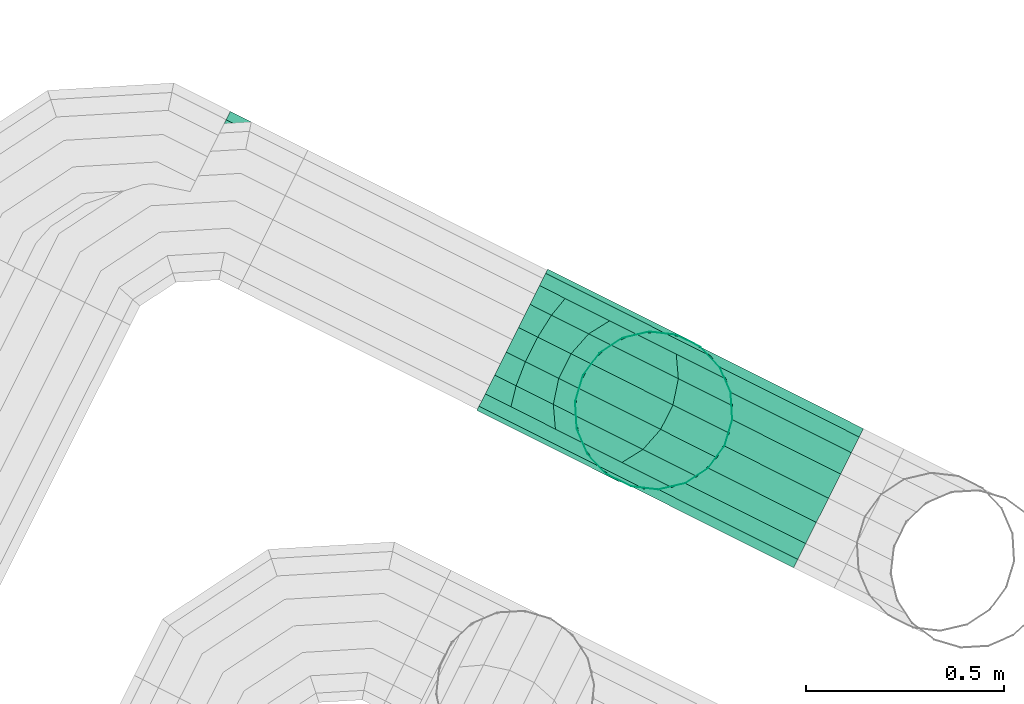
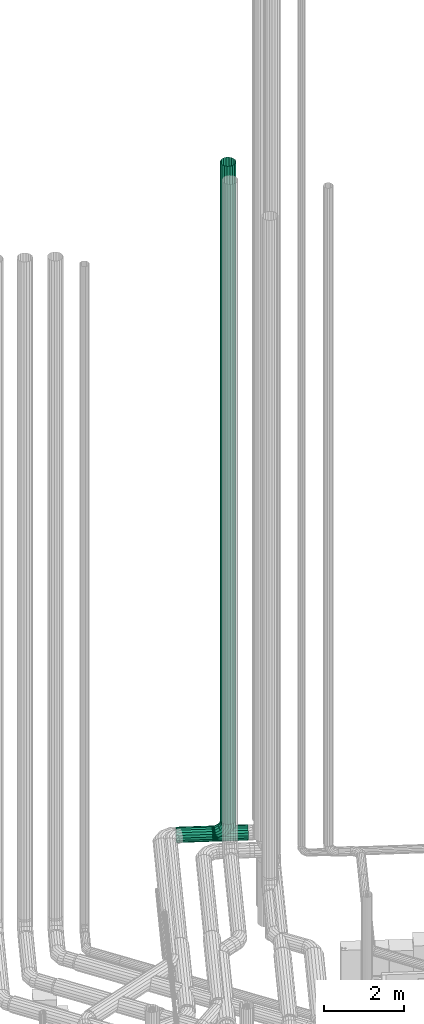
# One storey, part 32 of 206: 2 flow segments, 1 flow fitting.
"""IFC2X3 building model written with IfcOpenShell, lengths in metres."""

import ifcopenshell
import ifcopenshell.guid

model = None  # the IFC model being written
_history = None  # IfcOwnerHistory: only IFC2X3 demands one
_inside = {}  # id of a spatial element -> (the spatial element, [elements in it])
_under = {}  # id of a project, library or spatial element -> (it, [spatial elements below it])
_declared = {}  # id of a project -> (the project, [libraries it declares])
_typed = {}  # id of a type object -> (the type object, [elements of that type])
_made_of = {}  # id of a material, layer set ... -> (it, [elements and type objects made of it])


def new_model(schema):
    """Start an empty IFC model of exactly this schema.

    Asked for "IFC4X3", IfcOpenShell would pick the latest addendum, in which some entities
    have other attributes; the version numbers below select the first issue.
    IFC2X3 requires an IfcOwnerHistory on every rooted entity: one is made here for all.
    """
    global model, _history
    if schema == "IFC4X3":
        model = ifcopenshell.file(schema_version=(4, 3, 0, 0))
    else:
        model = ifcopenshell.file(schema=schema)
    _inside.clear()
    _under.clear()
    _declared.clear()
    _typed.clear()
    _made_of.clear()
    _history = None
    if model.schema == "IFC2X3":
        org = make("IfcOrganization", Name="unknown")
        user = make(
            "IfcPersonAndOrganization",
            ThePerson=make("IfcPerson", FamilyName="unknown"),
            TheOrganization=org,
        )
        app = make(
            "IfcApplication",
            ApplicationDeveloper=org,
            Version="unknown",
            ApplicationFullName="unknown",
            ApplicationIdentifier="unknown",
        )
        _history = make(
            "IfcOwnerHistory",
            OwningUser=user,
            OwningApplication=app,
            ChangeAction="ADDED",
            CreationDate=0,
        )
    return model


def make(cls, **values):
    """One entity of the class cls with the attributes given. An attribute that is None is left unset."""
    return model.create_entity(
        cls, **{name: value for name, value in values.items() if value is not None}
    )


def rooted(cls, **values):
    """An entity with a GlobalId (a new one), such as an element, a storey or a relation."""
    return make(cls, GlobalId=ifcopenshell.guid.new(), OwnerHistory=_history, **values)


def si_unit(unit_type, name, prefix=None):
    """IfcSIUnit, for example si_unit("LENGTHUNIT", "METRE", prefix="MILLI")."""
    return make("IfcSIUnit", UnitType=unit_type, Prefix=prefix, Name=name)


def derived_unit(unit_type, elements):
    """IfcDerivedUnit: a product of units, each with its exponent."""
    return make(
        "IfcDerivedUnit",
        Elements=[
            make("IfcDerivedUnitElement", Unit=unit, Exponent=power)
            for unit, power in elements
        ],
        UnitType=unit_type,
    )


def assignment(units):
    """IfcUnitAssignment: the units of a project."""
    return None if units is None else make("IfcUnitAssignment", Units=units)


def point(xyz):
    """IfcCartesianPoint."""
    return None if xyz is None else make("IfcCartesianPoint", Coordinates=xyz)


def direction(xyz):
    """IfcDirection."""
    return None if xyz is None else make("IfcDirection", DirectionRatios=xyz)


def frame(location, z_axis=None, x_axis=None):
    """IfcAxis2Placement3D, a coordinate frame: its origin and axes. An axis left out is left unset."""
    return make(
        "IfcAxis2Placement3D",
        Location=point(location),
        Axis=direction(z_axis),
        RefDirection=direction(x_axis),
    )


def origin():
    """The frame at (0, 0, 0) with its axes left unset."""
    return frame((0.0, 0.0, 0.0))


def place(relative_to, where):
    """IfcLocalPlacement: puts the frame where relative to a parent placement (None: the world)."""
    return make(
        "IfcLocalPlacement", PlacementRelTo=relative_to, RelativePlacement=where
    )


def context(
    kind, dimensions, precision=None, world=None, true_north=None, identifier=None
):
    """IfcGeometricRepresentationContext, for example the 3D "Model" context."""
    return make(
        "IfcGeometricRepresentationContext",
        ContextIdentifier=identifier,
        ContextType=kind,
        CoordinateSpaceDimension=dimensions,
        Precision=precision,
        WorldCoordinateSystem=world,
        TrueNorth=true_north,
    )


def subcontext(parent, identifier, kind, view, scale=None):
    """IfcGeometricRepresentationSubContext, for example "Body" below "Model"."""
    return make(
        "IfcGeometricRepresentationSubContext",
        ContextIdentifier=identifier,
        ContextType=kind,
        ParentContext=parent,
        TargetScale=scale,
        TargetView=view,
    )


def project(units=None, contexts=None):
    """IfcProject with its units and contexts."""
    return rooted(
        "IfcProject",
        Name="project",
        RepresentationContexts=contexts,
        UnitsInContext=assignment(units),
    )


def spatial(cls, under=None, at=None, **own):
    """A site, building, storey or space (cls), placed at a placement, below another one or the project."""
    s = rooted(cls, ObjectPlacement=at, **own)
    if under is not None:
        _under.setdefault(under.id(), (under, []))[1].append(s)
    return s


def faces_of(points, faces, orient=None, outer=None):
    """IfcFace entities. A face is a list of loops; a loop is a list of indices into points, from 0.

    orient and outer hold one flag for each loop. By default every Orientation is true, the
    first loop of a face is its IfcFaceOuterBound and the others are IfcFaceBound.
    """
    made = []
    for i, loops in enumerate(faces):
        bounds = []
        for j, loop in enumerate(loops):
            is_outer = j == 0 if outer is None else outer[i][j]
            bounds.append(
                make(
                    "IfcFaceOuterBound" if is_outer else "IfcFaceBound",
                    Bound=make("IfcPolyLoop", Polygon=[points[k] for k in loop]),
                    Orientation=True if orient is None else orient[i][j],
                )
            )
        made.append(make("IfcFace", Bounds=bounds))
    return made


def face_set(faces, orient=None, outer=None):
    """The faces of one IfcConnectedFaceSet. surface_model builds it on its shared points."""
    return ("IfcConnectedFaceSet", faces, orient, outer)


def surface_model(cls, points, shells):
    """IfcFaceBasedSurfaceModel or IfcShellBasedSurfaceModel (cls): surfaces that need not close."""
    shared = [point(p) for p in points]
    made = [make(c, CfsFaces=faces_of(shared, fs, o, b)) for c, fs, o, b in shells]
    if cls == "IfcFaceBasedSurfaceModel":
        return make(cls, FbsmFaces=made)
    return make(cls, SbsmBoundary=made)


def shape(context_of_items, identifier, shape_type, items):
    """IfcShapeRepresentation: the items that make up one representation, for example the "Body"."""
    return make(
        "IfcShapeRepresentation",
        ContextOfItems=context_of_items,
        RepresentationIdentifier=identifier,
        RepresentationType=shape_type,
        Items=items,
    )


def source(mapping_origin, context_of_items, identifier, shape_type, items):
    """IfcRepresentationMap: a shape defined once, which mapped items show again and again."""
    return make(
        "IfcRepresentationMap",
        MappingOrigin=mapping_origin,
        MappedRepresentation=shape(context_of_items, identifier, shape_type, items),
    )


def transform(
    local_origin,
    x_axis=None,
    y_axis=None,
    z_axis=None,
    scale=None,
    scale2=None,
    scale3=None,
    uniform=True,
):
    """IfcCartesianTransformationOperator3D, or its non-uniform kind. x_axis, y_axis, z_axis: its Axis1, 2, 3."""
    if uniform:
        return make(
            "IfcCartesianTransformationOperator3D",
            Axis1=direction(x_axis),
            Axis2=direction(y_axis),
            LocalOrigin=point(local_origin),
            Scale=scale,
            Axis3=direction(z_axis),
        )
    return make(
        "IfcCartesianTransformationOperator3DnonUniform",
        Axis1=direction(x_axis),
        Axis2=direction(y_axis),
        LocalOrigin=point(local_origin),
        Scale=scale,
        Axis3=direction(z_axis),
        Scale2=scale2,
        Scale3=scale3,
    )


def mapped(mapping_source, mapping_target):
    """IfcMappedItem: shows the shape of a source again, moved by a transform."""
    return make(
        "IfcMappedItem", MappingSource=mapping_source, MappingTarget=mapping_target
    )


def material(Name=None, Category=None):
    """IfcMaterial."""
    return make("IfcMaterial", Name=Name, Category=Category)


def made_of(thing, what):
    """Note that an element or type object is made of a material, layer set ...; save() writes the relation."""
    if what is not None:
        _made_of.setdefault(what.id(), (what, []))[1].append(thing)
    return thing


def type_object(cls, material=None, **own):
    """A type object (cls), such as IfcWallType, which elements share."""
    return made_of(rooted(cls, **own), material)


def type_shapes(of_type, sources):
    """Give a type object the sources (RepresentationMaps) that its elements show as mapped items."""
    of_type.RepresentationMaps = sources


def element(
    cls,
    number,
    at=None,
    inside=None,
    cuts=None,
    type_object=None,
    material=None,
    context=None,
    identifier="Body",
    shape_type=None,
    held_by="IfcProductDefinitionShape",
    body=None,
    shapes=None,
    **own,
):
    """One element of the class cls, such as IfcWall. Its Tag is "e" and its number.

    at: its placement. inside: the storey or other place that contains it. cuts: it is an
    opening in that element (IfcRelVoidsElement). A single representation is given by context,
    identifier, shape_type and body (its items); several are given by shapes. held_by: the class
    of the entity that holds the representations. save() writes the other relations.
    """
    e = rooted(cls, Tag="e%d" % number, ObjectPlacement=at, **own)
    if body is not None:
        shapes = [shape(context, identifier, shape_type, body)]
    if shapes is not None:
        e.Representation = make(held_by, Representations=shapes)
    if inside is not None:
        _inside.setdefault(inside.id(), (inside, []))[1].append(e)
    if cuts is not None:
        rooted(
            "IfcRelVoidsElement", RelatingBuildingElement=cuts, RelatedOpeningElement=e
        )
    if type_object is not None:
        _typed.setdefault(type_object.id(), (type_object, []))[1].append(e)
    return made_of(e, material)


def aggregate(whole, parts):
    """IfcRelAggregates: a whole, such as a stair, and the parts it consists of."""
    return rooted("IfcRelAggregates", RelatingObject=whole, RelatedObjects=parts)


def save(model, path):
    """Write the relations noted so far, then the file.

    IfcRelAggregates (storeys below a building ...), IfcRelContainedInSpatialStructure (elements
    in a storey), IfcRelDefinesByType, IfcRelAssociatesMaterial and IfcRelDeclares: one each for
    every whole, place, type object, material and project.
    """
    for whole, parts in _under.values():
        aggregate(whole, parts)
    for where, things in _inside.values():
        rooted(
            "IfcRelContainedInSpatialStructure",
            RelatedElements=things,
            RelatingStructure=where,
        )
    for kind, things in _typed.values():
        rooted("IfcRelDefinesByType", RelatedObjects=things, RelatingType=kind)
    for what, things in _made_of.values():
        rooted("IfcRelAssociatesMaterial", RelatedObjects=things, RelatingMaterial=what)
    for by, libraries in _declared.values():
        rooted("IfcRelDeclares", RelatingContext=by, RelatedDefinitions=libraries)
    model.write(path)


model = new_model("IFC2X3")

# Units and contexts
model_context = context("Model", 3, precision=5.2338327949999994e-05, world=origin(), true_north=direction((0.0, 1.0)))
body_context = subcontext(model_context, "Body", "Model", "MODEL_VIEW")
ifc_project = project(units=[si_unit("LENGTHUNIT", "METRE"), si_unit("AREAUNIT", "SQUARE_METRE"), si_unit("VOLUMEUNIT", "CUBIC_METRE"), si_unit("MASSUNIT", "GRAM", prefix="KILO"), si_unit("PLANEANGLEUNIT", "RADIAN"), derived_unit("THERMALTRANSMITTANCEUNIT", [(si_unit("MASSUNIT", "GRAM", prefix="KILO"), 1), (si_unit("THERMODYNAMICTEMPERATUREUNIT", "KELVIN"), -1), (si_unit("TIMEUNIT", "SECOND"), -3)])], contexts=[model_context])

# Site, building, storey
site_placement = place(None, frame((0.0, 0.0, 0.0), z_axis=(0.0, 0.0, 1.0), x_axis=(0.8939966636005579, -0.4480736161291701, 0.0)))
site = spatial("IfcSite", under=ifc_project, at=site_placement, Name="Default", CompositionType="ELEMENT")
building_placement = place(site_placement, origin())
building = spatial("IfcBuilding", under=site, at=building_placement, CompositionType="ELEMENT")
storey_placement = place(building_placement, origin())
storey = spatial("IfcBuildingStorey", under=building, at=storey_placement, Name="Erdgeschoss", CompositionType="ELEMENT", Elevation=0.0)

# Flow segment
ifc_material = material(Name="IfcSurfaceStyle #251447")
distribution_element_type_1 = type_object("IfcDistributionElementType", Name="Wickelfalzrohr 296387:Wickelfalzrohr 296387", material=ifc_material)
shared_shape_1 = source(origin(), body_context, "Body", "SurfaceModel", [
    surface_model("IfcFaceBasedSurfaceModel", [(25.29302107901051, 17.197595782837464, 2.6), (25.305082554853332, 17.129191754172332, 2.6), (25.305082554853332, 17.129191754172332, 22.599999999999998), (25.29302107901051, 17.197595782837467, 22.599999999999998), (25.339812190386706, 17.06903826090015, 2.6), (25.33981219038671, 17.069038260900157, 22.599999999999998), (25.393021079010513, 17.02439070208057, 2.6), (25.393021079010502, 17.02439070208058, 22.599999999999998), (25.45829144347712, 17.000634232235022, 2.6), (25.45829144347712, 17.00063423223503, 22.599999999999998), (25.527750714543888, 17.000634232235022, 2.6), (25.527750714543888, 17.00063423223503, 22.599999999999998), (25.593021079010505, 17.024390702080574, 2.6), (25.593021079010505, 17.02439070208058, 22.599999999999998), (25.646229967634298, 17.069038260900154, 2.6), (25.646229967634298, 17.06903826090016, 22.599999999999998), (25.680959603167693, 17.129191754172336, 2.6), (25.68095960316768, 17.12919175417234, 22.599999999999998), (25.693021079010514, 17.19759578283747, 2.6), (25.693021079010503, 17.197595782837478, 22.599999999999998), (25.680959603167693, 17.265999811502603, 2.6), (25.68095960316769, 17.265999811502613, 22.599999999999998), (25.6462299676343, 17.326153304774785, 2.6), (25.6462299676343, 17.326153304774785, 22.599999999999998), (25.59302107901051, 17.370800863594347, 2.6), (25.593021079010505, 17.37080086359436, 22.599999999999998), (25.527750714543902, 17.394557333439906, 2.6), (25.5277507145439, 17.394557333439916, 22.599999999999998), (25.45829144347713, 17.39455733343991, 2.6), (25.45829144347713, 17.394557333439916, 22.599999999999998), (25.393021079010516, 17.370800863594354, 2.6), (25.393021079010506, 17.37080086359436, 22.599999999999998), (25.33981219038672, 17.326153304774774, 2.6), (25.339812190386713, 17.326153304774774, 22.599999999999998), (25.305082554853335, 17.265999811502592, 2.6), (25.305082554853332, 17.265999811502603, 22.599999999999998)], [face_set([[[0, 1, 2, 3]], [[1, 4, 5, 2]], [[4, 6, 7, 5]], [[6, 8, 9, 7]], [[8, 10, 11, 9]], [[10, 12, 13, 11]], [[12, 14, 15, 13]], [[14, 16, 17, 15]], [[16, 18, 19, 17]], [[18, 20, 21, 19]], [[20, 22, 23, 21]], [[22, 24, 25, 23]], [[24, 26, 27, 25]], [[26, 28, 29, 27]], [[28, 30, 31, 29]], [[30, 32, 33, 31]], [[32, 34, 35, 33]], [[34, 0, 3, 35]]])]),
])
type_shapes(distribution_element_type_1, [shared_shape_1])
flow_segment_1_placement = place(storey_placement, origin())
element("IfcFlowSegment", 1, at=flow_segment_1_placement, inside=storey, type_object=distribution_element_type_1, material=ifc_material, Name="Wickelfalzrohr", ObjectType="Wickelfalzrohr", context=body_context, shape_type="MappedRepresentation", body=[
    mapped(shared_shape_1, transform((0.0, 0.0, 0.0), scale=1.0)),
])

# Flow fitting
distribution_element_type_2 = type_object("IfcDistributionElementType", Name="Segmentbogen 4 teilig 296410:Segmentbogen 4 teilig 296410", material=ifc_material)
shared_shape_2 = source(origin(), body_context, "Body", "SurfaceModel", [
    surface_model("IfcFaceBasedSurfaceModel", [(25.093021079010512, 17.397595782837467, 2.1999999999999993), (25.093021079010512, 17.385534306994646, 2.2684040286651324), (25.181871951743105, 17.385534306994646, 2.2684040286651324), (25.200200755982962, 17.397595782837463, 2.2000000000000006), (25.093021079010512, 17.350804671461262, 2.32855752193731), (25.165753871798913, 17.350804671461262, 2.32855752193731), (25.093021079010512, 17.29759578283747, 2.3732050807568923), (25.153790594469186, 17.29759578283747, 2.3732050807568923), (25.093021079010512, 17.232325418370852, 2.3969615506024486), (25.147425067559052, 17.232325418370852, 2.3969615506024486), (25.093021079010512, 17.162866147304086, 2.3969615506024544), (25.147425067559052, 17.162866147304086, 2.3969615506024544), (25.093021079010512, 17.097595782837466, 2.373205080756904), (25.153790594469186, 17.097595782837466, 2.373205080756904), (25.093021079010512, 17.044386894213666, 2.328557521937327), (25.165753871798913, 17.044386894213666, 2.328557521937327), (25.093021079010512, 17.00965725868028, 2.2684040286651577), (25.181871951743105, 17.00965725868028, 2.2684040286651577), (25.093021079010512, 16.99759578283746, 2.200000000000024), (25.200200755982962, 16.997595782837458, 2.1999999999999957), (25.093021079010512, 17.00965725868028, 2.13159597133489), (25.218529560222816, 17.00965725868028, 2.13159597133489), (25.093021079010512, 17.044386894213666, 2.0714424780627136), (25.234647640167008, 17.044386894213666, 2.0714424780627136), (25.093021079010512, 17.09759578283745, 2.026794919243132), (25.246610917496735, 17.09759578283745, 2.026794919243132), (25.093021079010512, 17.162866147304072, 2.003038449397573), (25.25297644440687, 17.162866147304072, 2.003038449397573), (25.093021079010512, 17.232325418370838, 2.0030384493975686), (25.25297644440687, 17.232325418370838, 2.0030384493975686), (25.093021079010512, 17.297595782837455, 2.0267949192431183), (25.246610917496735, 17.297595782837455, 2.0267949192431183), (25.093021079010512, 17.350804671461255, 2.071442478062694), (25.234647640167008, 17.350804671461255, 2.071442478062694), (25.093021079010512, 17.385534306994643, 2.1315959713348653), (25.218529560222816, 17.385534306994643, 2.1315959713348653), (25.335766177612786, 17.385534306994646, 2.357254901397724), (25.385841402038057, 17.397595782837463, 2.3071796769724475), (25.291730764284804, 17.350804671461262, 2.4012903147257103), (25.259046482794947, 17.29759578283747, 2.4339745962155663), (25.241655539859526, 17.232325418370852, 2.451365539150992), (25.241655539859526, 17.162866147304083, 2.4513655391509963), (25.259046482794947, 17.09759578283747, 2.433974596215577), (25.291730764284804, 17.044386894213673, 2.401290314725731), (25.335766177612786, 17.009657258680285, 2.357254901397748), (25.385841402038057, 16.997595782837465, 2.3071796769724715), (25.435916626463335, 17.009657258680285, 2.2571044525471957), (25.479952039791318, 17.044386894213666, 2.21306903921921), (25.512636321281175, 17.09759578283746, 2.180384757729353), (25.5300272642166, 17.16286614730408, 2.1629938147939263), (25.5300272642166, 17.232325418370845, 2.1629938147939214), (25.512636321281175, 17.297595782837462, 2.1803847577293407), (25.479952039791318, 17.350804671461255, 2.2130690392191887), (25.435916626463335, 17.385534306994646, 2.257104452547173), (25.42461705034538, 17.385534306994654, 2.511149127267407), (25.49302107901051, 17.397595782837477, 2.4928203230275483), (25.364463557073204, 17.350804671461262, 2.5272672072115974), (25.31981599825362, 17.297595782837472, 2.53923048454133), (25.296059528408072, 17.232325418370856, 2.545596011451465), (25.296059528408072, 17.162866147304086, 2.545596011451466), (25.319815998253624, 17.09759578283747, 2.5392304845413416), (25.364463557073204, 17.044386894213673, 2.5272672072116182), (25.42461705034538, 17.009657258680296, 2.51114912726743), (25.49302107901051, 16.997595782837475, 2.4928203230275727), (25.561425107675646, 17.00965725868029, 2.474491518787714), (25.62157860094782, 17.04438689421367, 2.458373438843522), (25.666226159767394, 17.097595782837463, 2.4464101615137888), (25.689982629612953, 17.162866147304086, 2.4400446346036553), (25.689982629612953, 17.232325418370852, 2.440044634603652), (25.6662261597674, 17.29759578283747, 2.446410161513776), (25.62157860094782, 17.35080467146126, 2.4583734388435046), (25.561425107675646, 17.385534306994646, 2.474491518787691), (25.42461705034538, 17.385534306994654, 2.5999999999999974), (25.49302107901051, 17.397595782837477, 2.599999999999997), (25.364463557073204, 17.350804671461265, 2.599999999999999), (25.31981599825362, 17.297595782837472, 2.6000000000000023), (25.296059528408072, 17.232325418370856, 2.6000000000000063), (25.296059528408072, 17.162866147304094, 2.600000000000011), (25.31981599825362, 17.097595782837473, 2.6000000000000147), (25.364463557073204, 17.04438689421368, 2.600000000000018), (25.42461705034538, 17.009657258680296, 2.60000000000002), (25.49302107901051, 16.997595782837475, 2.6000000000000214), (25.561425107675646, 17.009657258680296, 2.60000000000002), (25.62157860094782, 17.04438689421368, 2.600000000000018), (25.666226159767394, 17.097595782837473, 2.6000000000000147), (25.689982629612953, 17.162866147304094, 2.600000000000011), (25.689982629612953, 17.232325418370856, 2.6000000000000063), (25.6662261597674, 17.297595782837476, 2.6000000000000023), (25.62157860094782, 17.350804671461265, 2.599999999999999), (25.561425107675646, 17.385534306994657, 2.5999999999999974)], [face_set([[[0, 1, 2, 3]], [[1, 4, 5, 2]], [[4, 6, 7, 5]], [[6, 8, 9, 7]], [[8, 10, 11, 9]], [[10, 12, 13, 11]], [[12, 14, 15, 13]], [[14, 16, 17, 15]], [[16, 18, 19, 17]], [[18, 20, 21, 19]], [[20, 22, 23, 21]], [[22, 24, 25, 23]], [[24, 26, 27, 25]], [[26, 28, 29, 27]], [[28, 30, 31, 29]], [[30, 32, 33, 31]], [[32, 34, 35, 33]], [[34, 0, 3, 35]], [[3, 2, 36, 37]], [[2, 5, 38, 36]], [[5, 7, 39, 38]], [[7, 9, 40, 39]], [[9, 11, 41, 40]], [[11, 13, 42, 41]], [[13, 15, 43, 42]], [[15, 17, 44, 43]], [[17, 19, 45, 44]], [[19, 21, 46, 45]], [[21, 23, 47, 46]], [[23, 25, 48, 47]], [[25, 27, 49, 48]], [[27, 29, 50, 49]], [[29, 31, 51, 50]], [[31, 33, 52, 51]], [[33, 35, 53, 52]], [[35, 3, 37, 53]], [[37, 36, 54, 55]], [[36, 38, 56, 54]], [[38, 39, 57, 56]], [[39, 40, 58, 57]], [[40, 41, 59, 58]], [[41, 42, 60, 59]], [[42, 43, 61, 60]], [[43, 44, 62, 61]], [[44, 45, 63, 62]], [[45, 46, 64, 63]], [[46, 47, 65, 64]], [[47, 48, 66, 65]], [[48, 49, 67, 66]], [[49, 50, 68, 67]], [[50, 51, 69, 68]], [[51, 52, 70, 69]], [[52, 53, 71, 70]], [[53, 37, 55, 71]], [[55, 54, 72, 73]], [[54, 56, 74, 72]], [[56, 57, 75, 74]], [[57, 58, 76, 75]], [[58, 59, 77, 76]], [[59, 60, 78, 77]], [[60, 61, 79, 78]], [[61, 62, 80, 79]], [[62, 63, 81, 80]], [[63, 64, 82, 81]], [[64, 65, 83, 82]], [[65, 66, 84, 83]], [[66, 67, 85, 84]], [[67, 68, 86, 85]], [[68, 69, 87, 86]], [[69, 70, 88, 87]], [[70, 71, 89, 88]], [[71, 55, 73, 89]]])]),
])
type_shapes(distribution_element_type_2, [shared_shape_2])
flow_fitting_placement = place(storey_placement, origin())
element("IfcFlowFitting", 2, at=flow_fitting_placement, inside=storey, type_object=distribution_element_type_2, material=ifc_material, Name="Segmentbogen 4 teilig", ObjectType="Segmentbogen 4 teilig", context=body_context, shape_type="MappedRepresentation", body=[
    mapped(shared_shape_2, transform((0.0, 0.0, 0.0), scale=1.0)),
])

# Flow segment
distribution_element_type_3 = type_object("IfcDistributionElementType", Name="Wickelfalzrohr 620900:Wickelfalzrohr 620900", material=ifc_material)
shared_shape_3 = source(origin(), body_context, "Body", "SurfaceModel", [
    surface_model("IfcFaceBasedSurfaceModel", [(24.196582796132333, 17.197595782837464, 2.0), (24.196582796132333, 17.265999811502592, 2.0120614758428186), (25.987582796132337, 17.2659998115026, 2.0120614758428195), (25.987582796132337, 17.197595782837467, 2.0), (24.196582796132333, 17.326153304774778, 2.0467911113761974), (25.987582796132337, 17.326153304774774, 2.0467911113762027), (24.196582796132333, 17.370800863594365, 2.099999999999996), (25.987582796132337, 17.370800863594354, 2.1), (24.196582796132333, 17.394557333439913, 2.165270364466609), (25.987582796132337, 17.394557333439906, 2.1652703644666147), (24.196582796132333, 17.39455733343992, 2.2347296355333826), (25.987582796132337, 17.39455733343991, 2.234729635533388), (24.196582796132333, 17.37080086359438, 2.2999999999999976), (25.987582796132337, 17.37080086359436, 2.300000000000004), (24.196582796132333, 17.32615330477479, 2.3532088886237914), (25.987582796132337, 17.326153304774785, 2.3532088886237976), (24.196582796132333, 17.26599981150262, 2.387938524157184), (25.987582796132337, 17.26599981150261, 2.3879385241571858), (24.196582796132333, 17.19759578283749, 2.4000000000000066), (25.987582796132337, 17.19759578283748, 2.400000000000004), (24.196582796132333, 17.129191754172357, 2.387938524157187), (25.987582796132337, 17.129191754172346, 2.387938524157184), (24.196582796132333, 17.06903826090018, 2.353208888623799), (25.987582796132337, 17.06903826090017, 2.353208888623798), (24.196582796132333, 17.024390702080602, 2.300000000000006), (25.987582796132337, 17.024390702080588, 2.3000000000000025), (24.196582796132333, 17.00063423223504, 2.234729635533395), (25.987582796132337, 17.00063423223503, 2.234729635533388), (24.196582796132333, 17.000634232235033, 2.1652703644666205), (25.987582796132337, 17.00063423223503, 2.165270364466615), (24.196582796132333, 17.024390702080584, 2.1000000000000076), (25.987582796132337, 17.02439070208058, 2.100000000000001), (24.196582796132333, 17.06903826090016, 2.046791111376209), (25.987582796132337, 17.069038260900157, 2.046791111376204), (24.196582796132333, 17.129191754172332, 2.012061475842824), (25.987582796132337, 17.129191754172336, 2.012061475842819)], [face_set([[[0, 1, 2, 3]], [[1, 4, 5, 2]], [[4, 6, 7, 5]], [[6, 8, 9, 7]], [[8, 10, 11, 9]], [[10, 12, 13, 11]], [[12, 14, 15, 13]], [[14, 16, 17, 15]], [[16, 18, 19, 17]], [[18, 20, 21, 19]], [[20, 22, 23, 21]], [[22, 24, 25, 23]], [[24, 26, 27, 25]], [[26, 28, 29, 27]], [[28, 30, 31, 29]], [[30, 32, 33, 31]], [[32, 34, 35, 33]], [[34, 0, 3, 35]]])]),
])
type_shapes(distribution_element_type_3, [shared_shape_3])
flow_segment_2_placement = place(storey_placement, origin())
element("IfcFlowSegment", 3, at=flow_segment_2_placement, inside=storey, type_object=distribution_element_type_3, material=ifc_material, Name="Wickelfalzrohr", ObjectType="Wickelfalzrohr", context=body_context, shape_type="MappedRepresentation", body=[
    mapped(shared_shape_3, transform((0.0, 0.0, 0.0), scale=1.0)),
])

save(model, "model.ifc")
